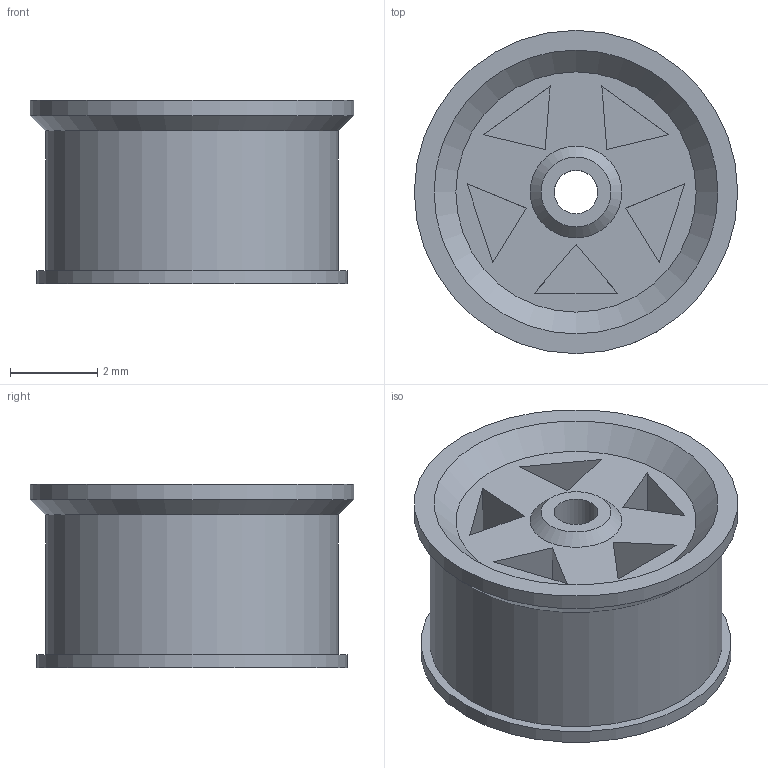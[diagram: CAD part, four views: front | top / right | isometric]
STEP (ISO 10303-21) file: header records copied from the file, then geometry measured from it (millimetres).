
FILE_DESCRIPTION(('Open CASCADE Model'),'2;1');
FILE_NAME('Open CASCADE Shape Model','2026-10-09T16:33:01',('Author'),( 'Open CASCADE'),'Open CASCADE STEP processor 8.0','build123d', 'Unknown');
FILE_SCHEMA(('AUTOMOTIVE_DESIGN { 1 0 10303 214 1 1 1 1 }'));
Length unit declared in the file: millimetre
Products named in the file (1): COMPOUND
Bounding box: 7.4 x 7.4 x 4.2 mm (x, y, z)
Volume: 130.5 mm3; surface area: 224.4 mm2
Topology: 1 solids, 1 shells, 32 faces, 64 edges, 42 vertices
Faces by surface type: plane 25, cylinder 4, cone 3
Full cylindrical faces by diameter (mm): 1 x1, 6.7 x1, 7.1 x1, 7.4 x1
Entity records: 1639 total; most frequent: CARTESIAN_POINT 298, DIRECTION 239, LINE 139, VECTOR 139, ORIENTED_EDGE 128, PCURVE 128, DEFINITIONAL_REPRESENTATION 128, EDGE_CURVE 64
